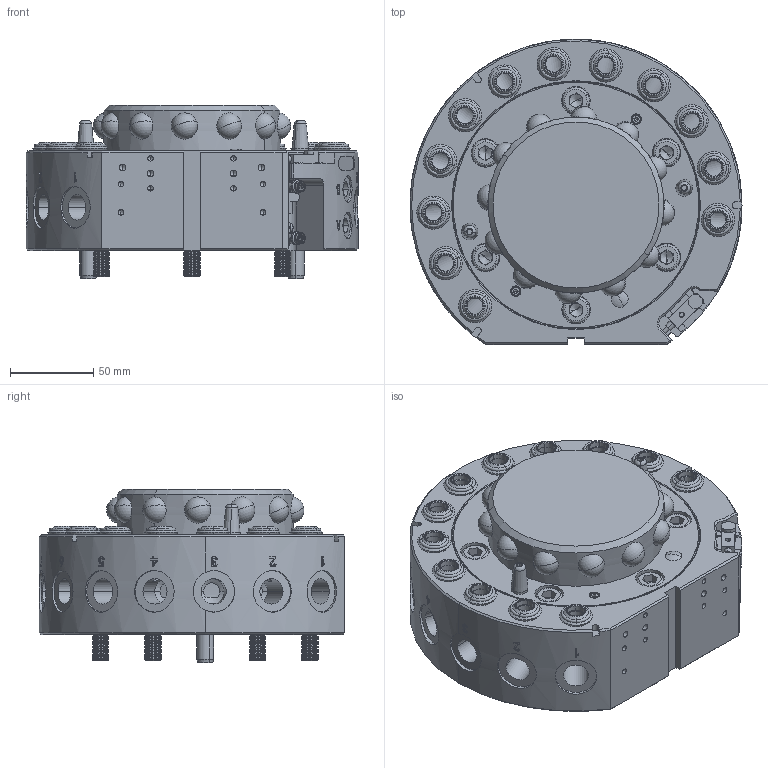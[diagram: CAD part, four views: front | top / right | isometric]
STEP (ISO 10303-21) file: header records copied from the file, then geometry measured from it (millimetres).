
FILE_DESCRIPTION (( 'STEP AP214' ), '1' );
FILE_NAME ('QCA-200R-SP.STEP', '2023-02-17T06:16:03', ( 'Windows User' ), ( 'P R C' ), 'SwSTEP 2.0', 'SolidWorks 2019', '' );
FILE_SCHEMA (( 'AUTOMOTIVE_DESIGN' ));
Length unit declared in the file: millimetre
Products named in the file (1): QCA-200R-SP
Bounding box: 200 x 184 x 104.5 mm (x, y, z)
Volume: 1937347.8 mm3; surface area: 176170.8 mm2
Topology: 1 solids, 14 shells, 2830 faces, 6431 edges, 3762 vertices
Faces by surface type: cone 991, cylinder 895, plane 628, torus 222, bspline 58, sphere 36
Entity records: 88239 total; most frequent: CARTESIAN_POINT 24119, DIRECTION 14541, ORIENTED_EDGE 12634, EDGE_CURVE 6317, AXIS2_PLACEMENT_3D 5855, VERTEX_POINT 3738, EDGE_LOOP 3095, CIRCLE 3082
